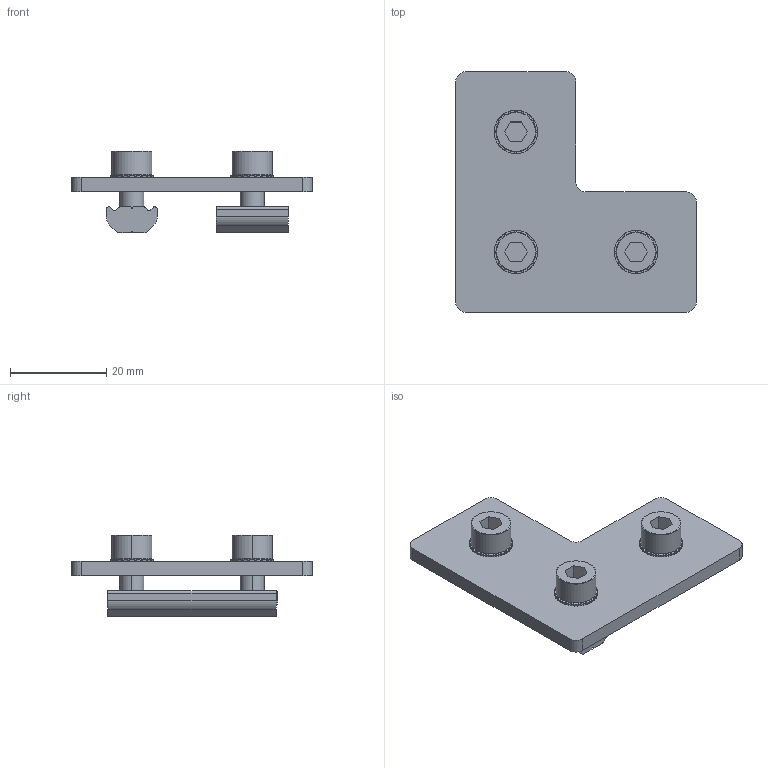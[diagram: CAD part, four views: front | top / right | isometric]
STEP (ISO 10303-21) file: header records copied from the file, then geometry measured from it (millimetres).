
FILE_DESCRIPTION (( 'STEP AP214' ), '1' );
FILE_NAME ('SFP-L2550.STEP', '2019-10-30T08:10:15', ( '微软用户' ), ( '微软中国' ), 'SwSTEP 2.0', 'SolidWorks 2016', '' );
FILE_SCHEMA (( 'AUTOMOTIVE_DESIGN' ));
Length unit declared in the file: millimetre
Products named in the file (6): PTS-M5; PTN-M5P25; PTN-M5; PTC-M5L12; SFP-L2550
Assembly tree (9 placements, depth 2):
  SFP-L2550
    SFP-L2550
    PTC-M5L12  x3
    PTN-M5
    PTN-M5P25
    PTS-M5  x3
Bounding box: 50 x 50 x 17 mm (x, y, z)
Volume: 9095.4 mm3; surface area: 7982.7 mm2
Topology: 9 solids, 9 shells, 664 faces, 1938 edges, 1286 vertices
Faces by surface type: plane 570, cylinder 76, cone 18
Entity records: 10370 total; most frequent: CARTESIAN_POINT 2044, ORIENTED_EDGE 1740, DIRECTION 1712, EDGE_CURVE 870, AXIS2_PLACEMENT_3D 582, VERTEX_POINT 578, VECTOR 548, LINE 548
